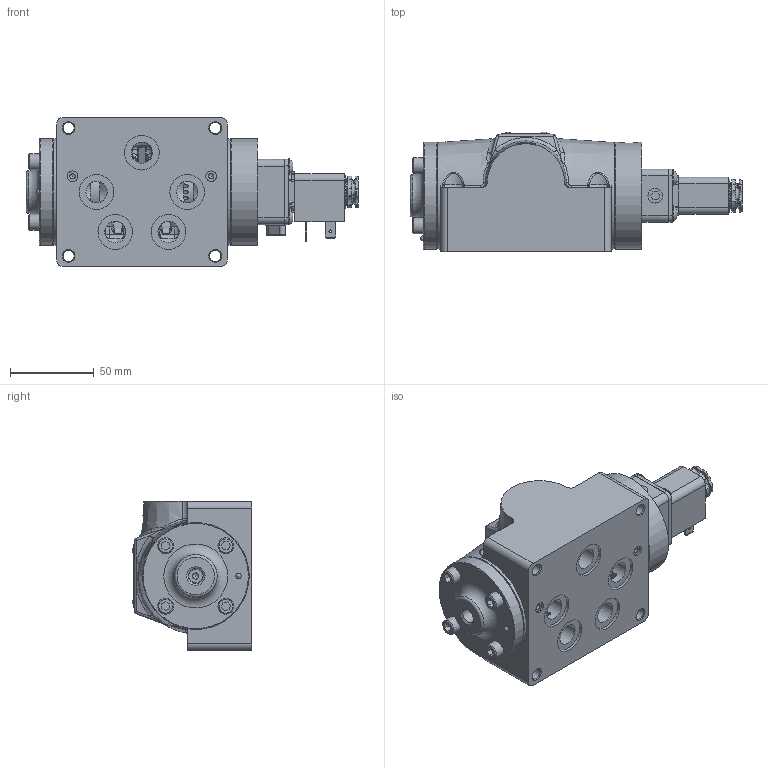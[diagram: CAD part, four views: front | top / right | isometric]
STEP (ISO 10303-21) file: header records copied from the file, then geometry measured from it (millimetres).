
FILE_DESCRIPTION(/* description */ (''),/* implementation_level */ '2;1');
FILE_NAME(/* name */ 'ESR4POCZ.stp',/* time_stamp */ '2026-09-23T16:13:35-04:00',/* author */ ('rmckenna'),/* organization */ (''),/* preprocessor_version */ 'ST-DEVELOPER v20.2',/* originating_system */ 'Autodesk Inventor 2027',/* authorisation */ '');
FILE_SCHEMA (('AUTOMOTIVE_DESIGN { 1 0 10303 214 3 1 1 }'));
Products named in the file (1): Part7
Bounding box: 197.71 x 71.21 x 88.9 mm (x, y, z)
Volume: 552641 mm3; surface area: 128665.9 mm2
Topology: 1 solids, 34 shells, 2238 faces, 5539 edges, 3429 vertices
Faces by surface type: plane 817, cylinder 581, cone 332, bspline 330, torus 155, sphere 23
Full cylindrical faces by diameter (mm): 1.168 x10, 1.3 x1, 1.397 x1, 1.5 x1, 1.651 x3, 2.032 x4, 2.07 x2, 2.261 x2, 2.35 x4, 2.388 x1, 2.464 x1, 2.5 x1, 2.778 x2, 2.8 x1, 3 x4, 3.048 x5, 3.175 x8, 3.4 x1, 3.683 x5, 3.962 x2, 4.191 x2, 4.826 x4, 4.978 x8, 5.15 x4, 5.156 x4, 5.5 x1, 5.556 x1, 6.35 x10, 6.629 x4, 6.65 x1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
Entity records: 82313 total; most frequent: CARTESIAN_POINT 29030, ORIENTED_EDGE 10988, DIRECTION 9853, EDGE_CURVE 5494, AXIS2_PLACEMENT_3D 3716, VERTEX_POINT 3429, EDGE_LOOP 2487, LINE 2421
